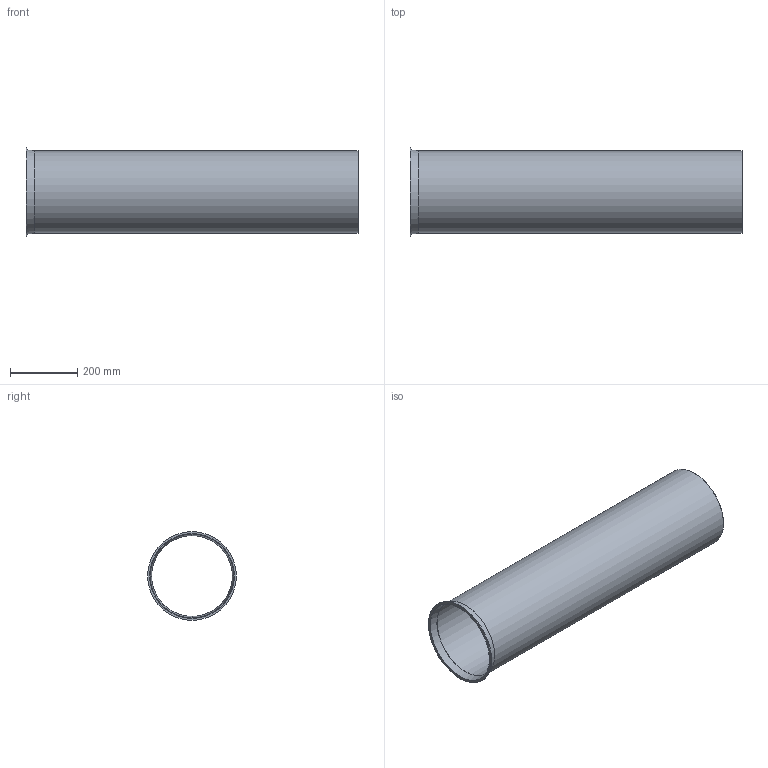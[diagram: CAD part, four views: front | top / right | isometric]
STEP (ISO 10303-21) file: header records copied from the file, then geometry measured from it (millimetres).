
FILE_DESCRIPTION((''),'2;1');
FILE_NAME('U:\Wolfgang\Marcel-3D\fertig\Kapitel 1\2511006.stp','2010-05-31T11:35:14',('TK2'),(''),'Autodesk Inventor 2010','Autodesk Inventor 2010','');
FILE_SCHEMA(('AUTOMOTIVE_DESIGN { 1 0 10303 214 1 1 1 1 }'));
Length unit declared in the file: millimetre
Products named in the file (1): 2511006
Bounding box: 991 x 265 x 265 mm (x, y, z)
Volume: 1523819.5 mm3; surface area: 1527000.5 mm2
Topology: 1 solids, 1 shells, 8 faces, 14 edges, 9 vertices
Faces by surface type: cylinder 3, plane 3, cone 2
Full cylindrical faces by diameter (mm): 241 x1, 245 x1, 265 x1
Entity records: 194 total; most frequent: DIRECTION 34, CARTESIAN_POINT 25, AXIS2_PLACEMENT_3D 17, ORIENTED_EDGE 16, EDGE_LOOP 16, VERTEX_POINT 8, CIRCLE 8, EDGE_CURVE 8
